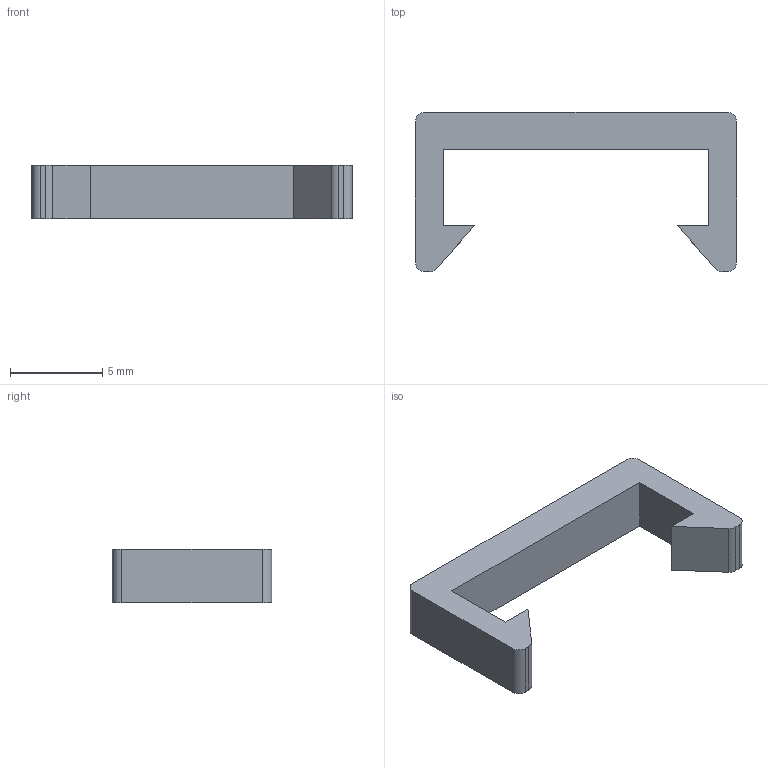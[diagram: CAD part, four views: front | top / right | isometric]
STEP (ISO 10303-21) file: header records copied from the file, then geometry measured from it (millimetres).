
FILE_DESCRIPTION(/* description */ ('STEP AP242 Edition 2','CAx-IF Rec.Pracs.---Representation and Presentation of Product Manufacturing Information (PMI)---4.0---2014-10-13','CAx-IF Rec.Pracs.---3D Tessellated Geometry---0.4---2014-09-14','2;1','CAx-IF Rec.Pracs.---User Defined Attributes---1.5---2016-08-15'),/* implementation_level */ '2;1');
FILE_NAME(/* name */ 'HIRO posing assembly - Part 1 (8)',/* time_stamp */ '2026-11-04T05:15:21Z',/* author */ (''),/* organization */ (''),/* preprocessor_version */ 'ST-DEVELOPER v20',/* originating_system */ 'ONSHAPE BY PTC INC, 1.223',/* authorisation */ ' ');
FILE_SCHEMA (('AP242_MANAGED_MODEL_BASED_3D_ENGINEERING_MIM_LF { 1 0 10303 442 3 1 4 }'));
Length unit declared in the file: metre
Products named in the file (1): Part 1
Bounding box: 17.4 x 8.64 x 2.9 mm (x, y, z)
Volume: 166.7 mm3; surface area: 313.7 mm2
Topology: 1 solids, 1 shells, 20 faces, 54 edges, 36 vertices
Faces by surface type: plane 14, cylinder 6
Entity records: 652 total; most frequent: CARTESIAN_POINT 111, ORIENTED_EDGE 108, DIRECTION 108, EDGE_CURVE 54, LINE 42, VECTOR 42, VERTEX_POINT 36, AXIS2_PLACEMENT_3D 33
